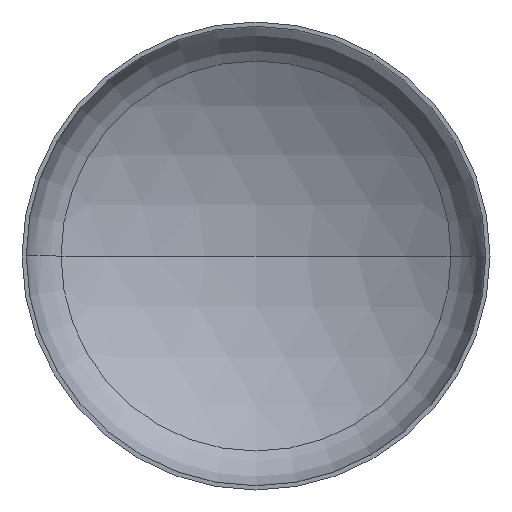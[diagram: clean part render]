
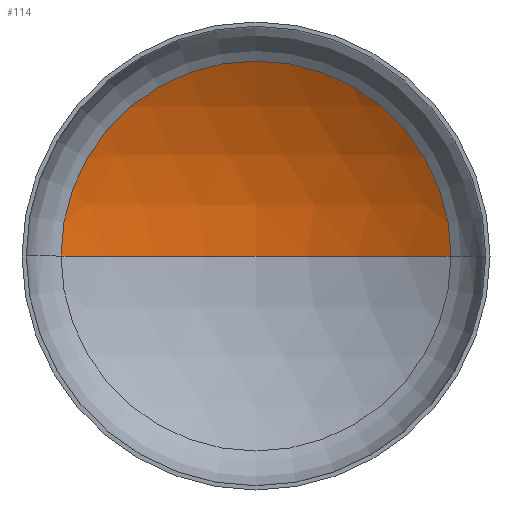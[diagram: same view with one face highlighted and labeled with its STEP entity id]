
A CAD part, front view. The second image highlights one B-rep face of the part: STEP entity #114.
In plain terms, the highlighted spherical face has radius 800 mm.
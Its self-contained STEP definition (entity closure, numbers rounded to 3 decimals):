
#2 = AXIS2_PLACEMENT_3D ( 'NONE', #236, #385, #258 ) ;
#3 = AXIS2_PLACEMENT_3D ( 'NONE', #272, #49, #291 ) ;
#13 = CARTESIAN_POINT ( 'NONE',  ( 416.744, 162.308, 0. ) ) ;
#17 = AXIS2_PLACEMENT_3D ( 'NONE', #379, #256, #402 ) ;
#41 = AXIS2_PLACEMENT_3D ( 'NONE', #178, #313, #60 ) ;
#49 = DIRECTION ( 'NONE',  ( 0., 0., 1. ) ) ;
#60 = DIRECTION ( 'NONE',  ( -1., 0., 0. ) ) ;
#63 = VERTEX_POINT ( 'NONE', #323 ) ;
#73 = SPHERICAL_SURFACE ( 'NONE', #41, 800. ) ;
#95 = VERTEX_POINT ( 'NONE', #177 ) ;
#98 = ORIENTED_EDGE ( 'NONE', *, *, #346, .T. ) ;
#102 = CIRCLE ( 'NONE', #2, 800. ) ;
#111 = EDGE_LOOP ( 'NONE', ( #226, #160, #98 ) ) ;
#114 = ADVANCED_FACE ( 'NONE', ( #316 ), #73, .F. ) ;
#154 = VERTEX_POINT ( 'NONE', #13 ) ;
#160 = ORIENTED_EDGE ( 'NONE', *, *, #384, .T. ) ;
#177 = CARTESIAN_POINT ( 'NONE',  ( -416.744, 162.308, 0. ) ) ;
#178 = CARTESIAN_POINT ( 'NONE',  ( 0., -520.572, 0. ) ) ;
#226 = ORIENTED_EDGE ( 'NONE', *, *, #375, .F. ) ;
#232 = CIRCLE ( 'NONE', #17, 416.744 ) ;
#236 = CARTESIAN_POINT ( 'NONE',  ( 0., -520.572, 0. ) ) ;
#256 = DIRECTION ( 'NONE',  ( 0., -1., 0. ) ) ;
#258 = DIRECTION ( 'NONE',  ( -1., 0., 0. ) ) ;
#272 = CARTESIAN_POINT ( 'NONE',  ( 0., -520.572, 0. ) ) ;
#291 = DIRECTION ( 'NONE',  ( 1., 0., 0. ) ) ;
#313 = DIRECTION ( 'NONE',  ( 0., 0., -1. ) ) ;
#316 = FACE_OUTER_BOUND ( 'NONE', #111, .T. ) ;
#321 = CIRCLE ( 'NONE', #3, 800. ) ;
#323 = CARTESIAN_POINT ( 'NONE',  ( 0., 279.428, 0. ) ) ;
#346 = EDGE_CURVE ( 'NONE', #154, #95, #232, .T. ) ;
#375 = EDGE_CURVE ( 'NONE', #63, #95, #321, .T. ) ;
#379 = CARTESIAN_POINT ( 'NONE',  ( 0., 162.308, 0. ) ) ;
#384 = EDGE_CURVE ( 'NONE', #63, #154, #102, .T. ) ;
#385 = DIRECTION ( 'NONE',  ( 0., 0., -1. ) ) ;
#402 = DIRECTION ( 'NONE',  ( 1., 0., 0. ) ) ;
